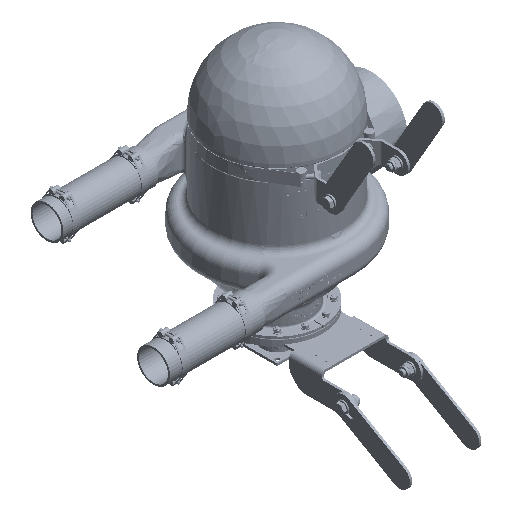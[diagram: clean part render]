
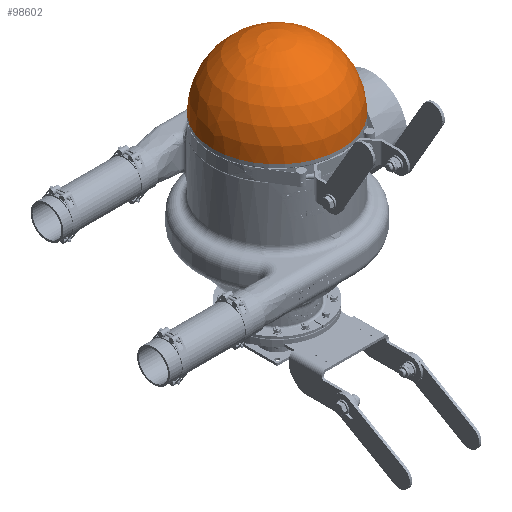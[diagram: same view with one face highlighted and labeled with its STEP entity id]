
A CAD part, isometric view. The second image highlights one B-rep face of the part: STEP entity #98602.
In plain terms, the highlighted spherical face has radius 168 mm.
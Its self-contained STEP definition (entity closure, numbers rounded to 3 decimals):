
#14=SPHERICAL_SURFACE('',#104582,168.);
#18596=FACE_OUTER_BOUND('',#24330,.T.);
#24330=EDGE_LOOP('',(#87440,#87441,#87442,#87443));
#42169=CIRCLE('',#104583,168.);
#42170=CIRCLE('',#104584,168.);
#42171=CIRCLE('',#104585,168.);
#49844=VERTEX_POINT('',#191490);
#49845=VERTEX_POINT('',#191491);
#49846=VERTEX_POINT('',#191493);
#62707=EDGE_CURVE('',#49844,#49845,#42169,.T.);
#62708=EDGE_CURVE('',#49846,#49845,#42170,.T.);
#62709=EDGE_CURVE('',#49845,#49844,#42171,.T.);
#87440=ORIENTED_EDGE('',*,*,#62707,.T.);
#87441=ORIENTED_EDGE('',*,*,#62708,.F.);
#87442=ORIENTED_EDGE('',*,*,#62708,.T.);
#87443=ORIENTED_EDGE('',*,*,#62709,.T.);
#98602=ADVANCED_FACE('',(#18596),#14,.T.);
#104582=AXIS2_PLACEMENT_3D('',#191489,#119833,#119834);
#104583=AXIS2_PLACEMENT_3D('',#191492,#119835,#119836);
#104584=AXIS2_PLACEMENT_3D('',#191494,#119837,#119838);
#104585=AXIS2_PLACEMENT_3D('',#191495,#119839,#119840);
#119833=DIRECTION('center_axis',(0.,0.,
-1.));
#119834=DIRECTION('ref_axis',(0.,1.,0.));
#119835=DIRECTION('center_axis',(0.,0.,
-1.));
#119836=DIRECTION('ref_axis',(-1.,0.,0.));
#119837=DIRECTION('center_axis',(-1.,0.,0.));
#119838=DIRECTION('ref_axis',(0.,-1.,0.));
#119839=DIRECTION('center_axis',(0.,0.,
-1.));
#119840=DIRECTION('ref_axis',(-1.,0.,0.));
#191489=CARTESIAN_POINT('Origin',(0.,0.,
-140.));
#191490=CARTESIAN_POINT('',(-168.,0.,-140.));
#191491=CARTESIAN_POINT('',(0.,-168.,-140.));
#191492=CARTESIAN_POINT('Origin',(0.,0.,
-140.));
#191493=CARTESIAN_POINT('',(0.,0.,
-308.));
#191494=CARTESIAN_POINT('Origin',(0.,0.,
-140.));
#191495=CARTESIAN_POINT('Origin',(0.,0.,
-140.));
